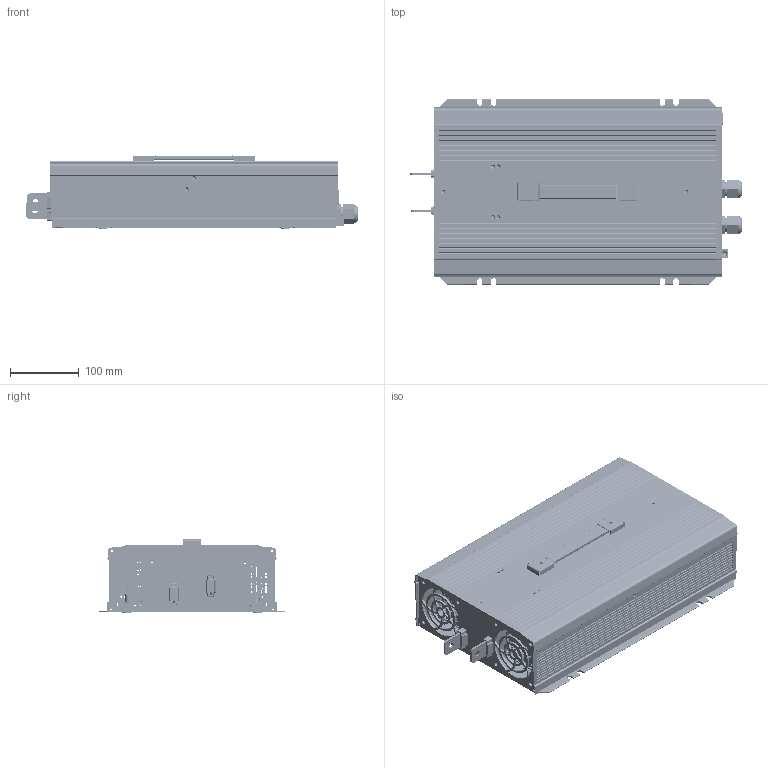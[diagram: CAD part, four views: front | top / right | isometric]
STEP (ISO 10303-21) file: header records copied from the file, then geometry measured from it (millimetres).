
FILE_DESCRIPTION(('Creo Elements/Direct Modeling STEP Export'),'2;1');
FILE_NAME('NTS-3200-US.stp','2022-03-28T19:30:02',(''),(''),'PTC Creo Elements/Direct Modeling STEP processor for AP214 (Solid Model)','PTC Creo Elements/Direct Modeling 19.0E 27-Jun-2016 (C) Parametric Technology GmbH','');
FILE_SCHEMA(('AUTOMOTIVE_DESIGN { 1 0 10303 214 1 1 1 1 }'));
Length unit declared in the file: millimetre
Products named in the file (211): 零件1; _X2_96F64EF6_X0_9.PRT; _X2_96F64EF6_X0_8.PRT; _X2_96F64EF6_X0_7.PRT; _X2_96F64EF6_X0_6.PRT; _X2_96F64EF6_X0_5-13520.PRT; _X2_96F64EF6_X0_5-13850.ASM; _X2_96F64EF6_X0_5-15330.PRT; _X2_96F64EF6_X0_4-17110.PRT; _X2_96F64EF6_X0_4-17440.ASM; _X2_96F64EF6_X0_4-18920.PRT; _X2_96F64EF6_X0_3-20700.PRT; _X2_96F64EF6_X0_3-21030.ASM; _X2_96F64EF6_X0_3-22510.PRT; _X2_96F64EF6_X0_2-24290.PRT; _X2_96F64EF6_X0_2-24620.ASM; _X2_96F64EF6_X0_2-29190.PRT; _X2_96F64EF6_X0_2-30720.PRT; _X2_96F64EF6_X0_12.PRT; _X2_96F64EF6_X0_11.PRT; _X2_96F64EF6_X0_10.PRT; _X2_96F64EF6_X0_1-37090.PRT; _X2_96F64EF6_X0_1-37420.ASM; _X2_96F64EF6_X0_1-41990.PRT; _X2_96F64EF6_X0_1-43520.PRT; _X2_7F8E89C463D27247_X0_-87030.PRT; _X2_7F8E89C463D27247_X0_-87360.ASM; _X2_75355BB9_X0_-88370.PRT; _X2_75355BB9_X0_-88700.ASM; OPEN_SHELL_1-89690.PRT; OPEN_SHELL_1-90090.ASM; GUWEI1_1-104750.PRT; GUWEI1_1-105080.ASM; GUWEI1-119740.PRT; GUWEI1-120070.ASM; _S_K_X2_02C6_X0__S_-216480.PRT; _S_K_X2_02C6_X0__S_-216810.ASM; _S_4_X2_0192_X0__S_-236350.PRT; _S_4_X2_0192_X0__S__S_6_S___S_U.ASM; _S_4_X2_0192_X0__S_-236960.ASM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
Assembly tree (261 placements, depth 3):
  零件1
  NTS-3200-US.stp
    111.PRT
    174-1616700.ASM
      174-1616370.PRT
    1GG1HS-SZ135A_.ASM
      1GG1HS-SZ135A__1-1609830.PRT
    1GG1HS-SZ135A__1-1610160.ASM
      1GG1HS-SZ135A__1-1609830.PRT
    1GG1HS-SZ163-1580030.ASM
      1GG1HS-SZ163-1579700.PRT
    1GG1HS-SZ163-1-1558150.ASM
      1GG1HS-SZ163-1-1557820.PRT
    1GG1HS-SZ907-1536270.ASM
      1GG1HS-SZ907-1535940.PRT
    1GG1HS-SZ908.ASM
      1GG1HS-SZ908_1-1503220.PRT
    1GG1HS-SZ908_1-1503550.ASM
      1GG1HS-SZ908_1-1503220.PRT
    1GG2MHS025J.ASM
      1GG2MHS025J_2-1455600.PRT
    1GG2MHS025J_1.ASM
      1GG2MHS025J_2-1455600.PRT
    1GG2MHS025J_2-1456210.ASM
      1GG2MHS025J_2-1455600.PRT
    1GG2MHS025J_3.ASM
      1GG2MHS025J_2-1455600.PRT
    1GG4CU-SZ075-1434650.ASM
      1GG4CU-SZ075-1434320.PRT
    1GG4CU-SZ075A-1420670.ASM
      1GG4CU-SZ075A-1420340.PRT
    1HH1-1406690.ASM
      1HH1-1406360.PRT
    1HH2NTU-3200.PRT
    1HH2NTU-3200I-1383060.ASM
      1HH2NTU-3200I-1382730.PRT
    1HH2NTU-3200J-1376300.ASM
      1HH2NTU-3200J-1375970.PRT
    1XX3NTS-3200-O-1369540.ASM
      1XX3NTS-3200-O-1369210.PRT
    1XX3NTU-3200-I-1190300.ASM
      1XX3NTU-3200-I-1189970.PRT
    555_1-1003120.ASM
      555_1-258090.PRT
    77-1002840.ASM
      77-1002510.PRT
    CASE_TOP_PRT-1000800.ASM
      CASE_TOP_PRT-1000470.PRT
    CASE_TOP_PRT_1-931390.ASM
      CASE_TOP_PRT_1-931060.PRT
    CU-1-883820.ASM
      CU-1-883490.PRT
    CU-5.ASM
      CU-5_1-872110.PRT
    CU-5_1-872440.ASM
      CU-5_1-872110.PRT
    CU-8.PRT
    CU-9-827240.ASM
      CU-9-826630.PRT
    CU-9_1.ASM
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Bounding box: 484.16 x 270 x 107.65 mm (x, y, z)
Volume: 2381581.5 mm3; surface area: 1991947.4 mm2
Topology: 139 solids, 139 shells, 6836 faces, 18495 edges, 12233 vertices
Faces by surface type: plane 4207, cylinder 2261, cone 239, torus 112, bspline 16, extrusion 1
Entity records: 161335 total; most frequent: CARTESIAN_POINT 30788, ORIENTED_EDGE 26816, DIRECTION 25205, EDGE_CURVE 13408, VECTOR 9745, LINE 9744, VERTEX_POINT 8843, AXIS2_PLACEMENT_3D 7730
